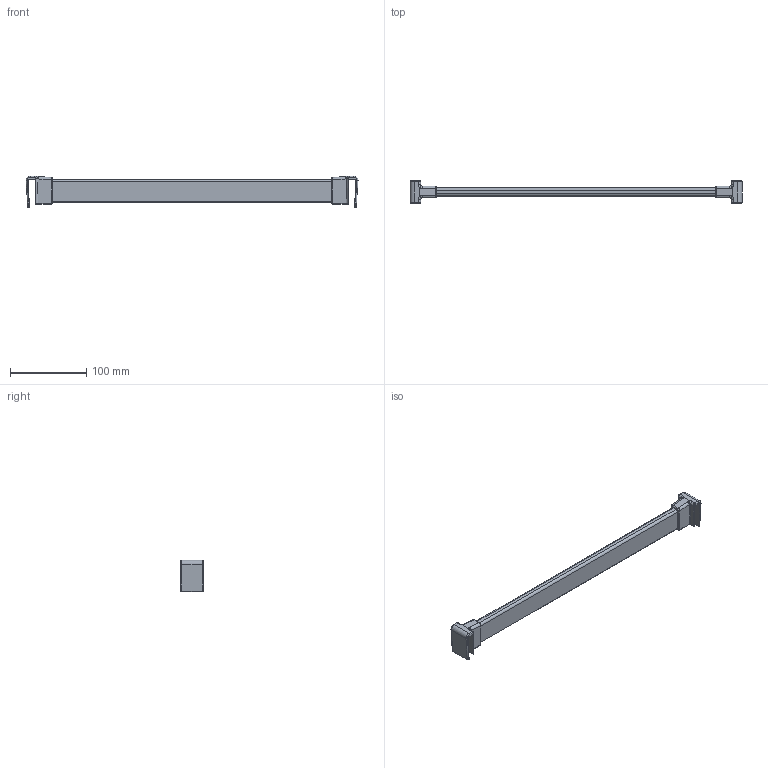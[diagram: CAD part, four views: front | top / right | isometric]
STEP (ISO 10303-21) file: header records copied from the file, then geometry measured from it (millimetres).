
FILE_DESCRIPTION (( 'STEP AP214' ), '1' );
FILE_NAME ('_Querreling_KAB-500_KS-19_P602_Glashalter.step', '2010-08-26T14:58:45', ( 'grass' ), ( '' ), 'SwSTEP 2.0', 'SolidWorks 2009', '' );
FILE_SCHEMA (( 'AUTOMOTIVE_DESIGN' ));
Length unit declared in the file: millimetre
Products named in the file (1): _Querreling_KAB-500_KS-19_P602_Glashalter
Bounding box: 434.78 x 30 x 41.5 mm (x, y, z)
Volume: 148160.7 mm3; surface area: 42257.3 mm2
Topology: 1 solids, 1 shells, 124 faces, 300 edges, 176 vertices
Faces by surface type: cylinder 58, plane 34, torus 16, bspline 12, sphere 4
Entity records: 5090 total; most frequent: CARTESIAN_POINT 2269, ORIENTED_EDGE 592, DIRECTION 590, EDGE_CURVE 296, AXIS2_PLACEMENT_3D 225, VERTEX_POINT 176, LINE 140, VECTOR 140
